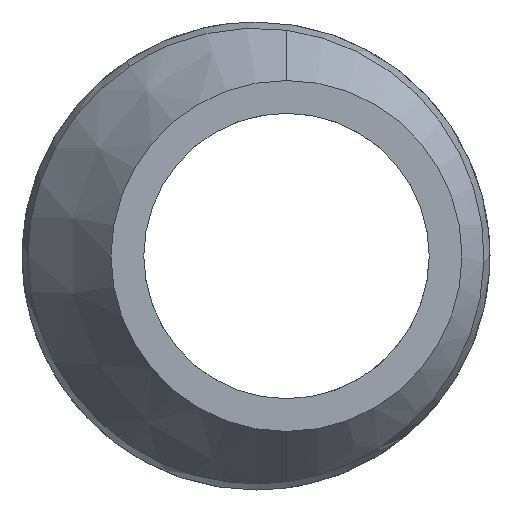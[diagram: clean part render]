
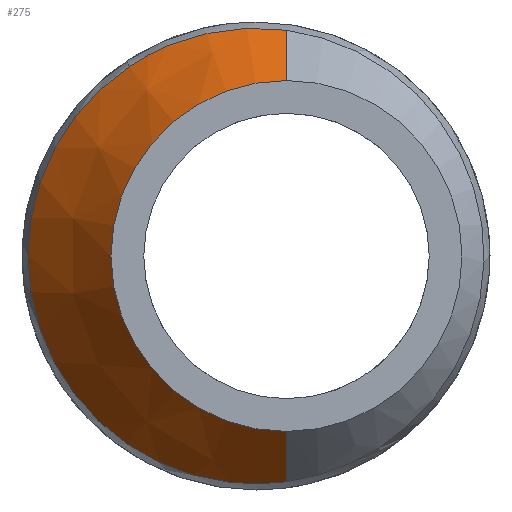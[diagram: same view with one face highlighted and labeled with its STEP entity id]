
A CAD part, left-side view. The second image highlights one B-rep face of the part: STEP entity #275.
In plain terms, the highlighted conical face has half-angle 37.258 degrees and reference radius 4.763 mm.
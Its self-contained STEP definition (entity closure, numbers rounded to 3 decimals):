
#6 = DIRECTION ( 'NONE',  ( 0.796, 0., -0.605 ) ) ;
#10 = CARTESIAN_POINT ( 'NONE',  ( -26.311, 1.886, -5.9 ) ) ;
#38 = B_SPLINE_CURVE_WITH_KNOTS ( 'NONE', 3,
 ( #464, #698, #231, #781, #308, #858, #377, #934, #468, #1012, #548, #72, #623, #149, #505, #561, #86, #634, #162, #716, #247, #797, #328, #876, #398, #952, #486, #10, #565, #93, #638, #164, #720, #254 ),
 .UNSPECIFIED., .F., .F.,
 ( 4, 2, 2, 2, 2, 2, 2, 2, 2, 2, 2, 2, 2, 2, 2, 2, 4 ),
 ( 0.019, 0.02, 0.021, 0.022, 0.024, 0.025, 0.026, 0.027, 0.028, 0.029, 0.03, 0.031, 0.032, 0.033, 0.034, 0.035, 0.036 ),
 .UNSPECIFIED. ) ;
#72 = CARTESIAN_POINT ( 'NONE',  ( -25.613, 6.178, 0.514 ) ) ;
#86 = CARTESIAN_POINT ( 'NONE',  ( -25.656, 5.902, -1.894 ) ) ;
#93 = CARTESIAN_POINT ( 'NONE',  ( -26.481, 0.884, -6.13 ) ) ;
#109 = EDGE_CURVE ( 'NONE', #538, #348, #463, .T. ) ;
#135 = CARTESIAN_POINT ( 'NONE',  ( -26.274, 2.107, 5.826 ) ) ;
#139 = CARTESIAN_POINT ( 'NONE',  ( -26.781, -0.828, 6.127 ) ) ;
#149 = CARTESIAN_POINT ( 'NONE',  ( -25.613, 6.177, -0.528 ) ) ;
#162 = CARTESIAN_POINT ( 'NONE',  ( -25.72, 5.498, -2.861 ) ) ;
#164 = CARTESIAN_POINT ( 'NONE',  ( -26.66, -0.147, -6.191 ) ) ;
#180 = CARTESIAN_POINT ( 'NONE',  ( -28.575, -0.828, -4.762 ) ) ;
#189 = DIRECTION ( 'NONE',  ( 0., 0., -1. ) ) ;
#210 = CARTESIAN_POINT ( 'NONE',  ( -26.457, 1.028, 6.109 ) ) ;
#214 = DIRECTION ( 'NONE',  ( 0., 0., -1. ) ) ;
#228 = CONICAL_SURFACE ( 'NONE', #337, 4.762, 0.65 ) ;
#231 = CARTESIAN_POINT ( 'NONE',  ( -25.961, 4.001, 4.731 ) ) ;
#247 = CARTESIAN_POINT ( 'NONE',  ( -25.809, 4.944, -3.737 ) ) ;
#254 = CARTESIAN_POINT ( 'NONE',  ( -26.781, -0.827, -6.127 ) ) ;
#275 = ADVANCED_FACE ( 'NONE', ( #877 ), #228, .T. ) ;
#301 = CARTESIAN_POINT ( 'NONE',  ( -26.159, 2.793, 5.531 ) ) ;
#308 = CARTESIAN_POINT ( 'NONE',  ( -25.842, 4.734, 3.998 ) ) ;
#314 = ORIENTED_EDGE ( 'NONE', *, *, #109, .F. ) ;
#317 = EDGE_CURVE ( 'NONE', #769, #516, #760, .T. ) ;
#323 = VERTEX_POINT ( 'NONE', #607 ) ;
#326 = EDGE_LOOP ( 'NONE', ( #626, #490, #370, #790, #314 ) ) ;
#328 = CARTESIAN_POINT ( 'NONE',  ( -25.921, 4.246, -4.513 ) ) ;
#337 = AXIS2_PLACEMENT_3D ( 'NONE', #527, #687, #214 ) ;
#348 = VERTEX_POINT ( 'NONE', #968 ) ;
#370 = ORIENTED_EDGE ( 'NONE', *, *, #317, .T. ) ;
#377 = CARTESIAN_POINT ( 'NONE',  ( -25.745, 5.339, 3.147 ) ) ;
#380 = EDGE_CURVE ( 'NONE', #538, #323, #671, .T. ) ;
#398 = CARTESIAN_POINT ( 'NONE',  ( -26.053, 3.437, -5.154 ) ) ;
#404 = CARTESIAN_POINT ( 'NONE',  ( -28.575, -0.828, -4.762 ) ) ;
#451 = CARTESIAN_POINT ( 'NONE',  ( -26.781, -0.828, 6.127 ) ) ;
#463 = LINE ( 'NONE', #180, #640 ) ;
#464 = CARTESIAN_POINT ( 'NONE',  ( -26.053, 3.439, 5.142 ) ) ;
#468 = CARTESIAN_POINT ( 'NONE',  ( -25.674, 5.791, 2.21 ) ) ;
#486 = CARTESIAN_POINT ( 'NONE',  ( -26.203, 2.527, -5.655 ) ) ;
#490 = ORIENTED_EDGE ( 'NONE', *, *, #587, .T. ) ;
#502 = DIRECTION ( 'NONE',  ( 0.796, 0., 0.605 ) ) ;
#505 = CARTESIAN_POINT ( 'NONE',  ( -25.62, 6.136, -0.88 ) ) ;
#516 = VERTEX_POINT ( 'NONE', #648 ) ;
#527 = CARTESIAN_POINT ( 'NONE',  ( -28.575, -0.828, 0. ) ) ;
#531 = CARTESIAN_POINT ( 'NONE',  ( -26.65, -0.088, 6.194 ) ) ;
#538 = VERTEX_POINT ( 'NONE', #404 ) ;
#548 = CARTESIAN_POINT ( 'NONE',  ( -25.628, 6.081, 1.203 ) ) ;
#561 = CARTESIAN_POINT ( 'NONE',  ( -25.641, 5.999, -1.561 ) ) ;
#565 = CARTESIAN_POINT ( 'NONE',  ( -26.367, 1.557, -5.994 ) ) ;
#587 = EDGE_CURVE ( 'NONE', #323, #769, #859, .T. ) ;
#599 = CARTESIAN_POINT ( 'NONE',  ( -26.715, -0.458, 6.177 ) ) ;
#607 = CARTESIAN_POINT ( 'NONE',  ( -28.575, -0.828, 4.762 ) ) ;
#623 = CARTESIAN_POINT ( 'NONE',  ( -25.61, 6.197, 0.168 ) ) ;
#626 = ORIENTED_EDGE ( 'NONE', *, *, #380, .T. ) ;
#634 = CARTESIAN_POINT ( 'NONE',  ( -25.696, 5.653, -2.543 ) ) ;
#638 = CARTESIAN_POINT ( 'NONE',  ( -26.541, 0.538, -6.169 ) ) ;
#640 = VECTOR ( 'NONE', #6, 1000. ) ;
#648 = CARTESIAN_POINT ( 'NONE',  ( -26.053, 3.439, 5.142 ) ) ;
#671 = CIRCLE ( 'NONE', #707, 4.762 ) ;
#684 = CARTESIAN_POINT ( 'NONE',  ( -26.104, 3.126, 5.35 ) ) ;
#687 = DIRECTION ( 'NONE',  ( 1., 0., 0. ) ) ;
#698 = CARTESIAN_POINT ( 'NONE',  ( -26.005, 3.727, 4.949 ) ) ;
#707 = AXIS2_PLACEMENT_3D ( 'NONE', #826, #742, #189 ) ;
#716 = CARTESIAN_POINT ( 'NONE',  ( -25.777, 5.144, -3.456 ) ) ;
#720 = CARTESIAN_POINT ( 'NONE',  ( -26.72, -0.488, -6.173 ) ) ;
#742 = DIRECTION ( 'NONE',  ( 1., 0., 0. ) ) ;
#760 = B_SPLINE_CURVE_WITH_KNOTS ( 'NONE', 3,
 ( #451, #599, #531, #851, #210, #930, #135, #301, #684, #846 ),
 .UNSPECIFIED., .F., .F.,
 ( 4, 2, 2, 2, 4 ),
 ( 0.015, 0.016, 0.017, 0.018, 0.019 ),
 .UNSPECIFIED. ) ;
#769 = VERTEX_POINT ( 'NONE', #139 ) ;
#781 = CARTESIAN_POINT ( 'NONE',  ( -25.879, 4.504, 4.255 ) ) ;
#790 = ORIENTED_EDGE ( 'NONE', *, *, #868, .T. ) ;
#797 = CARTESIAN_POINT ( 'NONE',  ( -25.881, 4.495, -4.265 ) ) ;
#826 = CARTESIAN_POINT ( 'NONE',  ( -28.575, -0.828, 0. ) ) ;
#840 = VECTOR ( 'NONE', #502, 1000. ) ;
#846 = CARTESIAN_POINT ( 'NONE',  ( -26.053, 3.439, 5.142 ) ) ;
#851 = CARTESIAN_POINT ( 'NONE',  ( -26.521, 0.653, 6.16 ) ) ;
#858 = CARTESIAN_POINT ( 'NONE',  ( -25.775, 5.151, 3.446 ) ) ;
#859 = LINE ( 'NONE', #969, #840 ) ;
#868 = EDGE_CURVE ( 'NONE', #516, #348, #38, .T. ) ;
#876 = CARTESIAN_POINT ( 'NONE',  ( -26.007, 3.718, -4.956 ) ) ;
#877 = FACE_OUTER_BOUND ( 'NONE', #326, .T. ) ;
#930 = CARTESIAN_POINT ( 'NONE',  ( -26.333, 1.754, 5.942 ) ) ;
#934 = CARTESIAN_POINT ( 'NONE',  ( -25.695, 5.658, 2.53 ) ) ;
#952 = CARTESIAN_POINT ( 'NONE',  ( -26.151, 2.843, -5.504 ) ) ;
#968 = CARTESIAN_POINT ( 'NONE',  ( -26.781, -0.827, -6.127 ) ) ;
#969 = CARTESIAN_POINT ( 'NONE',  ( -28.575, -0.828, 4.762 ) ) ;
#1012 = CARTESIAN_POINT ( 'NONE',  ( -25.641, 6.002, 1.548 ) ) ;
